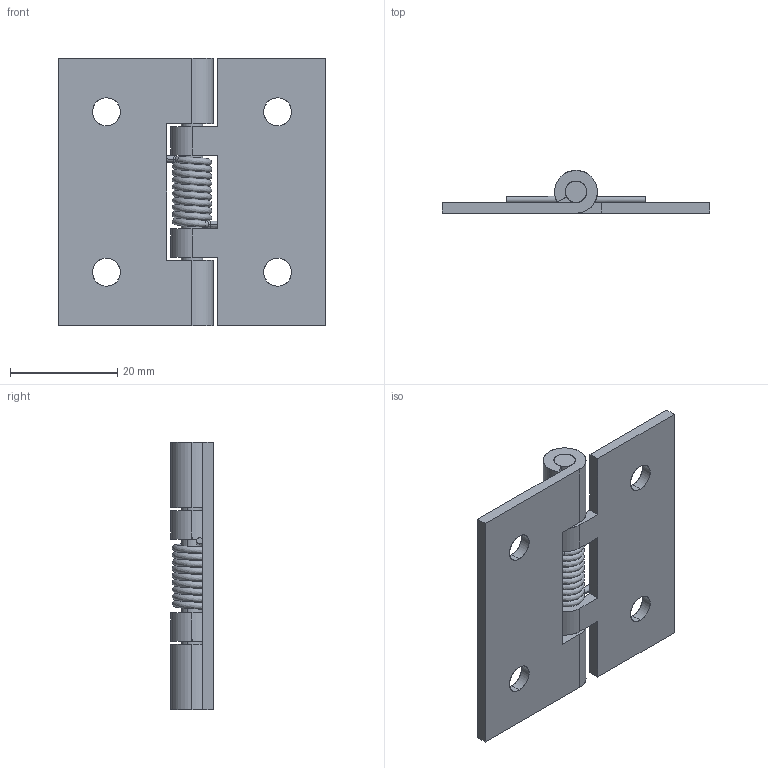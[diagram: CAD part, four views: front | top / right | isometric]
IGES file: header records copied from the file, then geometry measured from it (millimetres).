
Start section: SolidWorks IGES file using analytic representation for surfaces
Global section: file name: Z:\Mes documents\ATAO iges\Gamme CC\CC 1422\CC 1422.IGS; native system: SolidWorks 2008; preprocessor: SolidWorks 2008; author: cbrechard; date: 110628.163752; units: millimetre
Bounding box: 50 x 8 x 50 mm (x, y, z)
Surface area: 7750.7 mm2 (no closed solid volume)
Topology: 0 solids, 0 shells, 76 faces, 1100 edges, 1100 vertices
Faces by surface type: revolution 42, bspline 34
